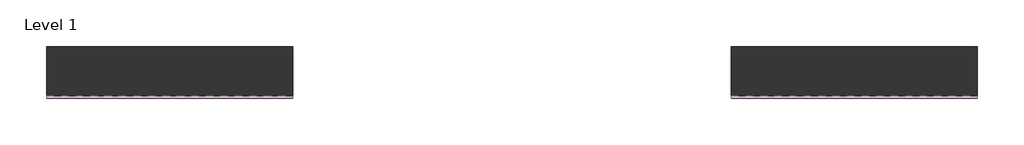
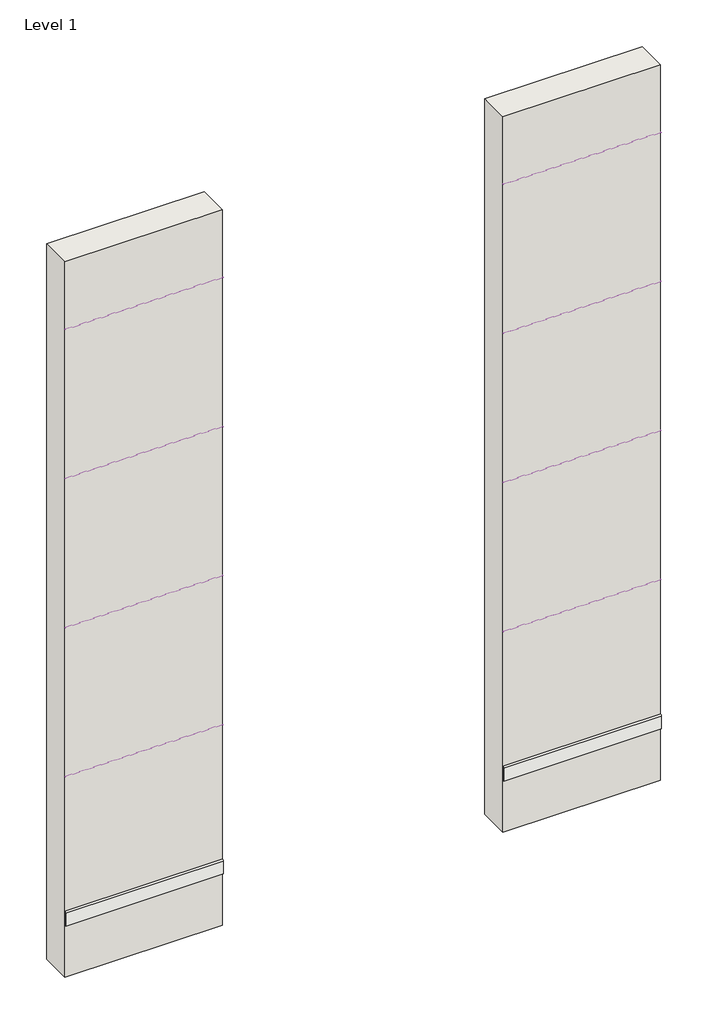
# One storey: 10 coverings, 2 walls.
"""IFC4 building model written with IfcOpenShell, lengths in millimetres."""

from ifc_helpers import new_model, si_unit, point, frame, frame_2d, origin, origin_with_axes, place, context, project, spatial, polyline, circle_curve, trimmed, segment, composite_curve, outline, extrude, element, save

model = new_model("IFC4")

# Units and contexts
model_context = context("Model", 3, world=origin())
ifc_project = project(units=[si_unit("LENGTHUNIT", "METRE", prefix="MILLI")], contexts=[model_context])

# Site, building, storey
site = spatial("IfcSite", under=ifc_project)
building = spatial("IfcBuilding", under=site)
storey = spatial("IfcBuildingStorey", under=building, Name="Level 1", Elevation=0.0)

# Coverings
placement = place(None, origin())
element("IfcCovering", 1, ObjectType="REVIGRES-TRAVERTINO CLASSIC-RB-8X59,2-MATTRECT-OFFWHITE", at=placement, inside=storey, context=model_context, shape_type="SweptSolid", body=[
    extrude(outline(composite_curve([segment(polyline([(-6988.3825563, 3350.0), (-6998.1825563, 3350.0), (-6998.1825563, 3420.2)]), True, "CONTINUOUS"), segment(trimmed(circle_curve(frame_2d((-6988.3825563, 3420.2)), 9.8), [point((-6998.1825563, 3420.2))], [point((-6988.3825563, 3430.0))], False, "CARTESIAN"), True, "CONTINUOUS"), segment(polyline([(-6988.3825563, 3430.0), (-6988.3825563, 3350.0)]), True, "CONTINUOUS")], self_intersect=False)), frame((6149.069966, 0.0, 0.0), z_axis=(1.0, 0.0, 0.0), x_axis=(0.0, 1.0, 0.0)), (0.0, 0.0, 1.0), 1000.0),
])
element("IfcCovering", 2, ObjectType="REVIGRES-TRAVERTINO CLASSIC-RB-8X88,9-MATTRECT-OFFWHITE", at=placement, inside=storey, context=model_context, shape_type="SweptSolid", body=[
    extrude(outline(composite_curve([segment(polyline([(-6988.3825563, 2350.0), (-6998.8825563, 2350.0), (-6998.8825563, 2419.5)]), True, "CONTINUOUS"), segment(trimmed(circle_curve(frame_2d((-6988.3825563, 2419.5)), 10.5), [point((-6998.8825563, 2419.5))], [point((-6988.3825563, 2430.0))], False, "CARTESIAN"), True, "CONTINUOUS"), segment(polyline([(-6988.3825563, 2430.0), (-6988.3825563, 2350.0)]), True, "CONTINUOUS")], self_intersect=False)), frame((6149.069966, 0.0, 0.0), z_axis=(1.0, 0.0, 0.0), x_axis=(0.0, 1.0, 0.0)), (0.0, 0.0, 1.0), 1000.0),
])
element("IfcCovering", 3, ObjectType="REVIGRES-TRAVERTINO CLASSIC-RB-8X118,6-MATTRECT-OFFWHITE", at=placement, inside=storey, context=model_context, shape_type="SweptSolid", body=[
    extrude(outline(composite_curve([segment(polyline([(-6988.3825563, 1350.0), (-6998.1825563, 1350.0), (-6998.1825563, 1420.2)]), True, "CONTINUOUS"), segment(trimmed(circle_curve(frame_2d((-6988.3825563, 1420.2)), 9.8), [point((-6998.1825563, 1420.2))], [point((-6988.3825563, 1430.0))], False, "CARTESIAN"), True, "CONTINUOUS"), segment(polyline([(-6988.3825563, 1430.0), (-6988.3825563, 1350.0)]), True, "CONTINUOUS")], self_intersect=False)), frame((6149.069966, 0.0, 0.0), z_axis=(1.0, 0.0, 0.0), x_axis=(0.0, 1.0, 0.0)), (0.0, 0.0, 1.0), 1000.0),
])
element("IfcCovering", 4, ObjectType="REVIGRES-TRAVERTINO CLASSIC-RB-9,5X29,5-MATTRECT-OFFWHITE", at=placement, inside=storey, context=model_context, shape_type="SweptSolid", body=[
    extrude(outline(composite_curve([segment(polyline([(-6988.3825563, 350.0), (-6998.1825563, 350.0), (-6998.1825563, 435.2)]), True, "CONTINUOUS"), segment(trimmed(circle_curve(frame_2d((-6988.3825563, 435.2)), 9.8), [point((-6998.1825563, 435.2))], [point((-6988.3825563, 445.0))], False, "CARTESIAN"), True, "CONTINUOUS"), segment(polyline([(-6988.3825563, 445.0), (-6988.3825563, 350.0)]), True, "CONTINUOUS")], self_intersect=False)), frame((6149.069966, 0.0, 0.0), z_axis=(1.0, 0.0, 0.0), x_axis=(0.0, 1.0, 0.0)), (0.0, 0.0, 1.0), 1000.0),
])
element("IfcCovering", 5, ObjectType="REVIGRES-TRAVERTINO CLASSIC-RB-8X59,2-MATTRECT-SAND", at=placement, inside=storey, context=model_context, shape_type="SweptSolid", body=[
    extrude(outline(composite_curve([segment(polyline([(-6988.3825563, 3350.0), (-6998.1825563, 3350.0), (-6998.1825563, 3420.2)]), True, "CONTINUOUS"), segment(trimmed(circle_curve(frame_2d((-6988.3825563, 3420.2)), 9.8), [point((-6998.1825563, 3420.2))], [point((-6988.3825563, 3430.0))], False, "CARTESIAN"), True, "CONTINUOUS"), segment(polyline([(-6988.3825563, 3430.0), (-6988.3825563, 3350.0)]), True, "CONTINUOUS")], self_intersect=False)), frame((8929.069966, 0.0, 0.0), z_axis=(1.0, 0.0, 0.0), x_axis=(0.0, 1.0, 0.0)), (0.0, 0.0, 1.0), 1000.0),
])
element("IfcCovering", 6, ObjectType="REVIGRES-TRAVERTINO CLASSIC-RB-8X88,9-MATTRECT-SAND", at=placement, inside=storey, context=model_context, shape_type="SweptSolid", body=[
    extrude(outline(composite_curve([segment(polyline([(-6988.3825563, 2350.0), (-6998.8825563, 2350.0), (-6998.8825563, 2419.5)]), True, "CONTINUOUS"), segment(trimmed(circle_curve(frame_2d((-6988.3825563, 2419.5)), 10.5), [point((-6998.8825563, 2419.5))], [point((-6988.3825563, 2430.0))], False, "CARTESIAN"), True, "CONTINUOUS"), segment(polyline([(-6988.3825563, 2430.0), (-6988.3825563, 2350.0)]), True, "CONTINUOUS")], self_intersect=False)), frame((8929.069966, 0.0, 0.0), z_axis=(1.0, 0.0, 0.0), x_axis=(0.0, 1.0, 0.0)), (0.0, 0.0, 1.0), 1000.0),
])
element("IfcCovering", 7, ObjectType="REVIGRES-TRAVERTINO CLASSIC-RB-8X118,6-MATTRECT-SAND", at=placement, inside=storey, context=model_context, shape_type="SweptSolid", body=[
    extrude(outline(composite_curve([segment(polyline([(-6988.3825563, 1350.0), (-6998.1825563, 1350.0), (-6998.1825563, 1420.2)]), True, "CONTINUOUS"), segment(trimmed(circle_curve(frame_2d((-6988.3825563, 1420.2)), 9.8), [point((-6998.1825563, 1420.2))], [point((-6988.3825563, 1430.0))], False, "CARTESIAN"), True, "CONTINUOUS"), segment(polyline([(-6988.3825563, 1430.0), (-6988.3825563, 1350.0)]), True, "CONTINUOUS")], self_intersect=False)), frame((8929.069966, 0.0, 0.0), z_axis=(1.0, 0.0, 0.0), x_axis=(0.0, 1.0, 0.0)), (0.0, 0.0, 1.0), 1000.0),
])
element("IfcCovering", 8, ObjectType="REVIGRES-TRAVERTINO CLASSIC-RB-9,5X29,5-MATTRECT-SAND", at=placement, inside=storey, context=model_context, shape_type="SweptSolid", body=[
    extrude(outline(composite_curve([segment(polyline([(-6988.3825563, 350.0), (-6998.1825563, 350.0), (-6998.1825563, 435.2)]), True, "CONTINUOUS"), segment(trimmed(circle_curve(frame_2d((-6988.3825563, 435.2)), 9.8), [point((-6998.1825563, 435.2))], [point((-6988.3825563, 445.0))], False, "CARTESIAN"), True, "CONTINUOUS"), segment(polyline([(-6988.3825563, 445.0), (-6988.3825563, 350.0)]), True, "CONTINUOUS")], self_intersect=False)), frame((8929.069966, 0.0, 0.0), z_axis=(1.0, 0.0, 0.0), x_axis=(0.0, 1.0, 0.0)), (0.0, 0.0, 1.0), 1000.0),
])
element("IfcCovering", 9, ObjectType="REVIGRES-TRAVERTINO CLASSIC-RB-8X44,35-MATTRECT-OFFWHITE", at=placement, inside=storey, context=model_context, shape_type="SweptSolid", body=[
    extrude(outline(composite_curve([segment(polyline([(-6988.3825563, 4350.0), (-6998.8825563, 4350.0), (-6998.8825563, 4419.5)]), True, "CONTINUOUS"), segment(trimmed(circle_curve(frame_2d((-6988.3825563, 4419.5)), 10.5), [point((-6998.8825563, 4419.5))], [point((-6988.3825563, 4430.0))], False, "CARTESIAN"), True, "CONTINUOUS"), segment(polyline([(-6988.3825563, 4430.0), (-6988.3825563, 4350.0)]), True, "CONTINUOUS")], self_intersect=False)), frame((6149.069966, 0.0, 0.0), z_axis=(1.0, 0.0, 0.0), x_axis=(0.0, 1.0, 0.0)), (0.0, 0.0, 1.0), 1000.0),
])
element("IfcCovering", 10, ObjectType="REVIGRES-TRAVERTINO CLASSIC-RB-8X44,35-MATTRECT-SAND", at=placement, inside=storey, context=model_context, shape_type="SweptSolid", body=[
    extrude(outline(composite_curve([segment(polyline([(-6988.3825563, 4350.0), (-6998.8825563, 4350.0), (-6998.8825563, 4419.5)]), True, "CONTINUOUS"), segment(trimmed(circle_curve(frame_2d((-6988.3825563, 4419.5)), 10.5), [point((-6998.8825563, 4419.5))], [point((-6988.3825563, 4430.0))], False, "CARTESIAN"), True, "CONTINUOUS"), segment(polyline([(-6988.3825563, 4430.0), (-6988.3825563, 4350.0)]), True, "CONTINUOUS")], self_intersect=False)), frame((8929.069966, 0.0, 0.0), z_axis=(1.0, 0.0, 0.0), x_axis=(0.0, 1.0, 0.0)), (0.0, 0.0, 1.0), 1000.0),
])

# Walls
element("IfcWall", 11, ObjectType="Wall 1", at=placement, inside=storey, context=model_context, shape_type="SweptSolid", body=[
    extrude(outline(polyline([(7149.069966, -6988.3825563), (6149.069966, -6988.3825563), (6149.069966, -6788.3825563), (7149.069966, -6788.3825563), (7149.069966, -6988.3825563)])), origin_with_axes(), (0.0, 0.0, 1.0), 4800.0),
])
element("IfcWall", 12, ObjectType="Wall 1", at=placement, inside=storey, context=model_context, shape_type="SweptSolid", body=[
    extrude(outline(polyline([(9929.069966, -6988.3825563), (8929.069966, -6988.3825563), (8929.069966, -6788.3825563), (9929.069966, -6788.3825563), (9929.069966, -6988.3825563)])), origin_with_axes(), (0.0, 0.0, 1.0), 4800.0),
])

save(model, "model.ifc")
